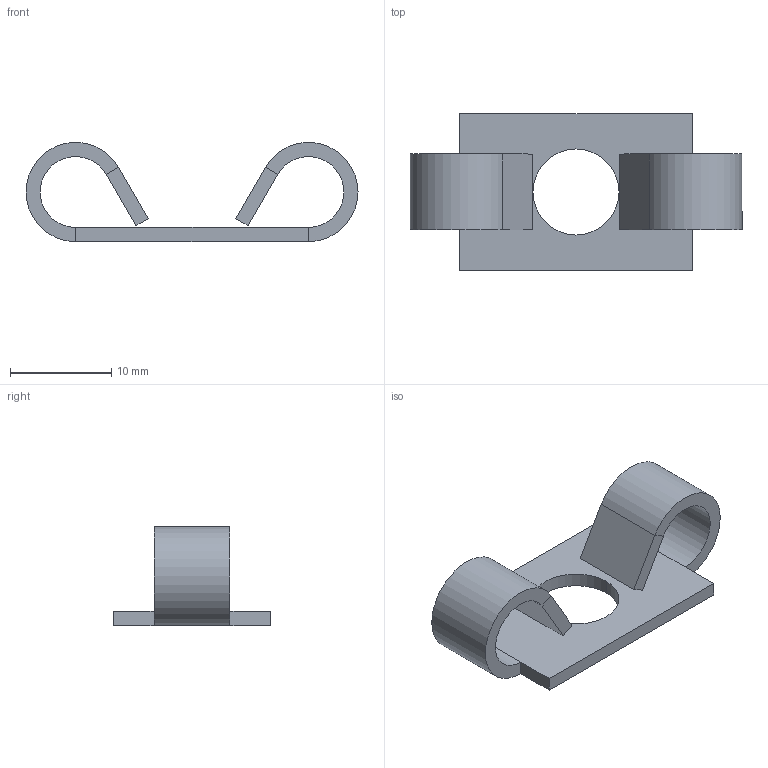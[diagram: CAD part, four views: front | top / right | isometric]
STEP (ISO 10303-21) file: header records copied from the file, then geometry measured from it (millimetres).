
FILE_DESCRIPTION (( 'STEP AP203' ), '1' );
FILE_NAME ('69-CE-PRC-30.STEP', '2015-07-09T08:15:34', ( '' ), ( '' ), 'SwSTEP 2.0', 'SolidWorks 2013', '' );
FILE_SCHEMA (( 'CONFIG_CONTROL_DESIGN' ));
Length unit declared in the file: millimetre
Products named in the file (1): 69-CE-PRC-30
Bounding box: 32.8 x 15.5 x 9.8 mm (x, y, z)
Volume: 912.2 mm3; surface area: 1579.7 mm2
Topology: 1 solids, 1 shells, 28 faces, 62 edges, 36 vertices
Faces by surface type: plane 22, cylinder 6
Entity records: 831 total; most frequent: DIRECTION 132, CARTESIAN_POINT 127, ORIENTED_EDGE 124, EDGE_CURVE 62, VECTOR 50, LINE 50, AXIS2_PLACEMENT_3D 41, VERTEX_POINT 36
